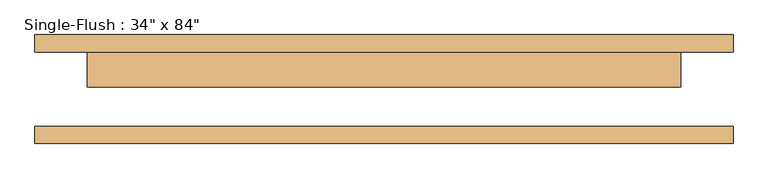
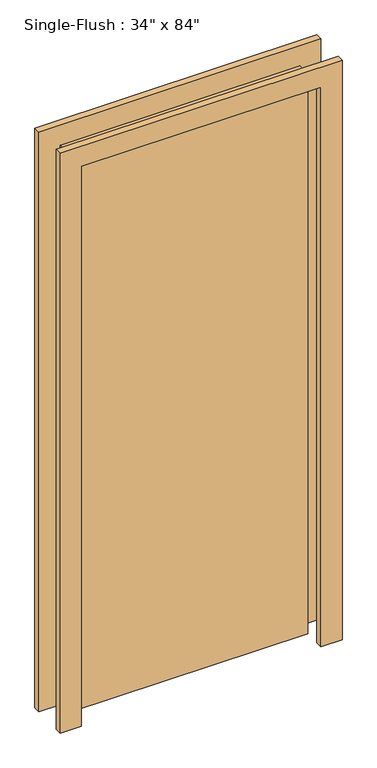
"""IFC4 building model written with IfcOpenShell, lengths in millimetres: door geometry."""

from ifc_helpers import new_model, si_unit, frame, origin, origin_with_axes, place, context, project, spatial, polyline, outline, extrude, source, transform, mapped, element, save


def door_f8c0b9cb(model_context):
    return source(origin(), model_context, "Body", "SweptSolid", [
        extrude(outline(polyline([(2209.8, -508.0), (0.0, -508.0), (0.0, -431.8), (2133.6, -431.8), (2133.6, 431.8), (0.0, 431.8), (0.0, 508.0), (2209.8, 508.0), (2209.8, -508.0)])), frame((0.0, 53.975, 0.0), z_axis=(0.0, 1.0, 0.0), x_axis=(0.0, 0.0, 1.0)), (0.0, 0.0, 1.0), 25.4),
        extrude(outline(polyline([(2209.8, 508.0), (2209.8, -508.0), (0.0, -508.0), (0.0, -431.8), (2133.6, -431.8), (2133.6, 431.8), (0.0, 431.8), (0.0, 508.0), (2209.8, 508.0)])), frame((0.0, -79.375, 0.0), z_axis=(0.0, 1.0, 0.0), x_axis=(0.0, 0.0, 1.0)), (0.0, 0.0, 1.0), 25.4),
        extrude(outline(polyline([(431.8, 3.175), (-431.8, 3.175), (-431.8, 53.975), (431.8, 53.975), (431.8, 3.175)])), origin_with_axes(), (0.0, 0.0, 1.0), 2133.6),
    ])


if __name__ == "__main__":
    model = new_model("IFC4")
    model_context = context("Model", 3, world=origin())
    ifc_project = project(units=[si_unit("LENGTHUNIT", "METRE", prefix="MILLI")], contexts=[model_context])
    site = spatial("IfcSite", under=ifc_project)
    building = spatial("IfcBuilding", under=site)
    placement = place(None, origin())
    door_shape = door_f8c0b9cb(model_context)
    element("IfcDoor", 1, ObjectType="Single-Flush : 34\" x 84\"", at=placement, inside=building, context=model_context, shape_type="MappedRepresentation", body=[
        mapped(door_shape, transform((0.0, 0.0, 0.0), x_axis=(1.0, 0.0, 0.0), y_axis=(0.0, 1.0, 0.0), z_axis=(0.0, 0.0, 1.0))),
    ])
    save(model, "model.ifc")
